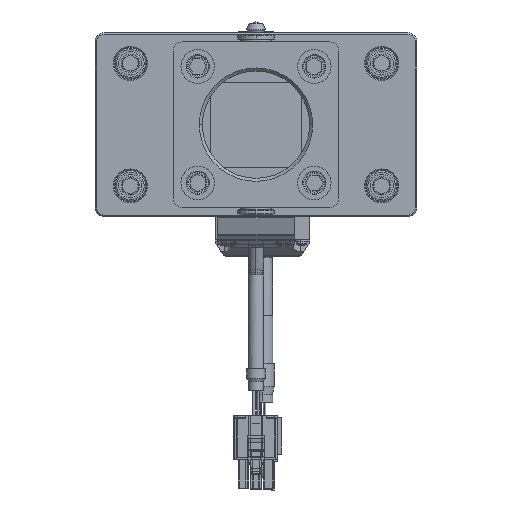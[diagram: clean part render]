
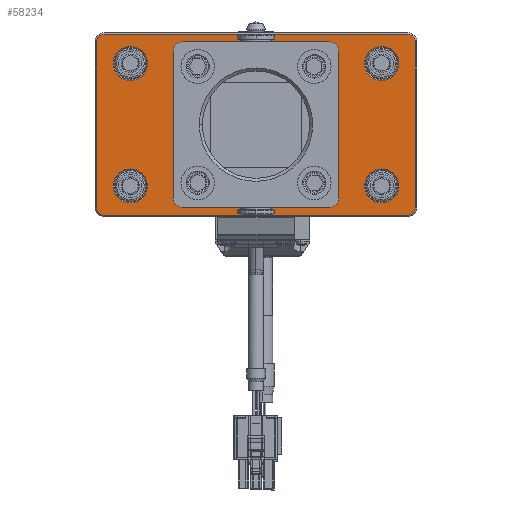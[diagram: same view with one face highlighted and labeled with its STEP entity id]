
A CAD part, front view. The second image highlights one B-rep face of the part: STEP entity #58234.
In plain terms, the highlighted planar face has unit normal (0, -1, 0) as drawn and (0, 1, 0) by its records, which use the part's own axes.
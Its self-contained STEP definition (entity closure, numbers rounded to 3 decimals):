
#56686=CARTESIAN_POINT('',(0.,6.,0.));
#56687=DIRECTION('',(0.,-1.,0.));
#56688=DIRECTION('',(1.,0.,0.));
#56689=AXIS2_PLACEMENT_3D('',#56686,#56687,#56688);
#56691=CARTESIAN_POINT('',(0.,6.,0.));
#56692=DIRECTION('',(0.,-1.,0.));
#56693=DIRECTION('',(-1.,0.,0.));
#56694=AXIS2_PLACEMENT_3D('',#56691,#56692,#56693);
#56696=CARTESIAN_POINT('',(-49.5,6.,-27.));
#56697=DIRECTION('',(0.,1.,0.));
#56698=DIRECTION('',(0.,0.,-1.));
#56699=AXIS2_PLACEMENT_3D('',#56696,#56697,#56698);
#56701=DIRECTION('',(-1.,0.,0.));
#56702=VECTOR('',#56701,99.);
#56703=CARTESIAN_POINT('',(49.5,6.,
-29.5));
#56704=LINE('',#56703,#56702);
#56705=CARTESIAN_POINT('',(49.5,6.,-27.));
#56706=DIRECTION('',(0.,1.,0.));
#56707=DIRECTION('',(1.,0.,0.));
#56708=AXIS2_PLACEMENT_3D('',#56705,#56706,#56707);
#56710=DIRECTION('',(0.,0.,-1.));
#56711=VECTOR('',#56710,54.);
#56712=CARTESIAN_POINT('',(52.,6.,27.));
#56713=LINE('',#56712,#56711);
#56714=CARTESIAN_POINT('',(49.5,6.,27.));
#56715=DIRECTION('',(0.,1.,0.));
#56716=DIRECTION('',(0.,0.,1.));
#56717=AXIS2_PLACEMENT_3D('',#56714,#56715,#56716);
#56719=DIRECTION('',(1.,0.,0.));
#56720=VECTOR('',#56719,99.);
#56721=CARTESIAN_POINT('',(-49.5,6.,
29.5));
#56722=LINE('',#56721,#56720);
#56723=CARTESIAN_POINT('',(-49.5,6.,27.));
#56724=DIRECTION('',(0.,1.,0.));
#56725=DIRECTION('',(-1.,0.,0.));
#56726=AXIS2_PLACEMENT_3D('',#56723,#56724,#56725);
#56728=DIRECTION('',(0.,0.,1.));
#56729=VECTOR('',#56728,54.);
#56730=CARTESIAN_POINT('',(-52.,6.,
-27.));
#56731=LINE('',#56730,#56729);
#56732=CARTESIAN_POINT('',(41.,6.,20.));
#56733=DIRECTION('',(0.,-1.,0.));
#56734=DIRECTION('',(1.,0.,0.));
#56735=AXIS2_PLACEMENT_3D('',#56732,#56733,#56734);
#56737=CARTESIAN_POINT('',(41.,6.,20.));
#56738=DIRECTION('',(0.,-1.,0.));
#56739=DIRECTION('',(-1.,0.,0.));
#56740=AXIS2_PLACEMENT_3D('',#56737,#56738,#56739);
#56742=CARTESIAN_POINT('',(-41.,6.,20.));
#56743=DIRECTION('',(0.,-1.,0.));
#56744=DIRECTION('',(1.,0.,0.));
#56745=AXIS2_PLACEMENT_3D('',#56742,#56743,#56744);
#56747=CARTESIAN_POINT('',(-41.,6.,20.));
#56748=DIRECTION('',(0.,-1.,0.));
#56749=DIRECTION('',(-1.,0.,0.));
#56750=AXIS2_PLACEMENT_3D('',#56747,#56748,#56749);
#56752=CARTESIAN_POINT('',(41.,6.,-20.));
#56753=DIRECTION('',(0.,-1.,0.));
#56754=DIRECTION('',(1.,0.,0.));
#56755=AXIS2_PLACEMENT_3D('',#56752,#56753,#56754);
#56757=CARTESIAN_POINT('',(41.,6.,-20.));
#56758=DIRECTION('',(0.,-1.,0.));
#56759=DIRECTION('',(-1.,0.,0.));
#56760=AXIS2_PLACEMENT_3D('',#56757,#56758,#56759);
#56762=CARTESIAN_POINT('',(-41.,6.,-20.));
#56763=DIRECTION('',(0.,-1.,0.));
#56764=DIRECTION('',(1.,0.,0.));
#56765=AXIS2_PLACEMENT_3D('',#56762,#56763,#56764);
#56767=CARTESIAN_POINT('',(-41.,6.,-20.));
#56768=DIRECTION('',(0.,-1.,0.));
#56769=DIRECTION('',(-1.,0.,0.));
#56770=AXIS2_PLACEMENT_3D('',#56767,#56768,#56769);
#56772=CARTESIAN_POINT('',(-19.,6.,-19.));
#56773=DIRECTION('',(0.,1.,0.));
#56774=DIRECTION('',(1.,0.,0.));
#56775=AXIS2_PLACEMENT_3D('',#56772,#56773,#56774);
#56777=CARTESIAN_POINT('',(-19.,6.,-19.));
#56778=DIRECTION('',(0.,1.,0.));
#56779=DIRECTION('',(-1.,0.,0.));
#56780=AXIS2_PLACEMENT_3D('',#56777,#56778,#56779);
#56782=CARTESIAN_POINT('',(-19.,6.,19.));
#56783=DIRECTION('',(0.,1.,0.));
#56784=DIRECTION('',(0.,0.,-1.));
#56785=AXIS2_PLACEMENT_3D('',#56782,#56783,#56784);
#56787=CARTESIAN_POINT('',(-19.,6.,19.));
#56788=DIRECTION('',(0.,1.,0.));
#56789=DIRECTION('',(0.,0.,1.));
#56790=AXIS2_PLACEMENT_3D('',#56787,#56788,#56789);
#56792=CARTESIAN_POINT('',(19.,6.,19.));
#56793=DIRECTION('',(0.,1.,0.));
#56794=DIRECTION('',(-1.,0.,0.));
#56795=AXIS2_PLACEMENT_3D('',#56792,#56793,#56794);
#56797=CARTESIAN_POINT('',(19.,6.,19.));
#56798=DIRECTION('',(0.,1.,0.));
#56799=DIRECTION('',(1.,0.,0.));
#56800=AXIS2_PLACEMENT_3D('',#56797,#56798,#56799);
#56802=CARTESIAN_POINT('',(19.,6.,-19.));
#56803=DIRECTION('',(0.,1.,0.));
#56804=DIRECTION('',(0.,0.,1.));
#56805=AXIS2_PLACEMENT_3D('',#56802,#56803,#56804);
#56807=CARTESIAN_POINT('',(19.,6.,-19.));
#56808=DIRECTION('',(0.,1.,0.));
#56809=DIRECTION('',(0.,0.,-1.));
#56810=AXIS2_PLACEMENT_3D('',#56807,#56808,#56809);
#57718=CARTESIAN_POINT('',(18.,6.,0.));
#57719=CARTESIAN_POINT('',(-18.,6.,0.));
#57720=VERTEX_POINT('',#57718);
#57721=VERTEX_POINT('',#57719);
#57766=CARTESIAN_POINT('',(-49.5,6.,-29.5));
#57767=CARTESIAN_POINT('',(-52.,6.,-27.));
#57768=VERTEX_POINT('',#57766);
#57769=VERTEX_POINT('',#57767);
#57774=CARTESIAN_POINT('',(-52.,6.,
27.));
#57775=VERTEX_POINT('',#57774);
#57778=CARTESIAN_POINT('',(-49.5,6.,29.5));
#57779=VERTEX_POINT('',#57778);
#57782=CARTESIAN_POINT('',(49.5,6.,29.5));
#57783=VERTEX_POINT('',#57782);
#57786=CARTESIAN_POINT('',(52.,6.,27.));
#57787=VERTEX_POINT('',#57786);
#57790=CARTESIAN_POINT('',(52.,6.,
-27.));
#57791=VERTEX_POINT('',#57790);
#57794=CARTESIAN_POINT('',(49.5,6.,-29.5));
#57795=VERTEX_POINT('',#57794);
#57814=CARTESIAN_POINT('',(46.55,6.,20.));
#57815=CARTESIAN_POINT('',(35.45,6.,20.));
#57816=VERTEX_POINT('',#57814);
#57817=VERTEX_POINT('',#57815);
#57838=CARTESIAN_POINT('',(-35.45,6.,20.));
#57839=CARTESIAN_POINT('',(-46.55,6.,20.));
#57840=VERTEX_POINT('',#57838);
#57841=VERTEX_POINT('',#57839);
#57854=CARTESIAN_POINT('',(46.55,6.,-20.));
#57855=CARTESIAN_POINT('',(35.45,6.,-20.));
#57856=VERTEX_POINT('',#57854);
#57857=VERTEX_POINT('',#57855);
#57862=CARTESIAN_POINT('',(-35.45,6.,-20.));
#57863=CARTESIAN_POINT('',(-46.55,6.,-20.));
#57864=VERTEX_POINT('',#57862);
#57865=VERTEX_POINT('',#57863);
#57962=CARTESIAN_POINT('',(-16.,6.,-19.));
#57963=CARTESIAN_POINT('',(-22.,6.,-19.));
#57964=VERTEX_POINT('',#57962);
#57965=VERTEX_POINT('',#57963);
#57970=CARTESIAN_POINT('',(-19.,6.,16.));
#57971=CARTESIAN_POINT('',(-19.,6.,22.));
#57972=VERTEX_POINT('',#57970);
#57973=VERTEX_POINT('',#57971);
#57978=CARTESIAN_POINT('',(16.,6.,19.));
#57979=CARTESIAN_POINT('',(22.,6.,19.));
#57980=VERTEX_POINT('',#57978);
#57981=VERTEX_POINT('',#57979);
#57986=CARTESIAN_POINT('',(19.,6.,-16.));
#57987=CARTESIAN_POINT('',(19.,6.,-22.));
#57988=VERTEX_POINT('',#57986);
#57989=VERTEX_POINT('',#57987);
#58158=CARTESIAN_POINT('',(0.,6.,0.));
#58159=DIRECTION('',(0.,1.,0.));
#58160=DIRECTION('',(1.,0.,0.));
#58161=AXIS2_PLACEMENT_3D('',#58158,#58159,#58160);
#58162=PLANE('',#58161);
#58164=ORIENTED_EDGE('',*,*,#58163,.F.);
#58166=ORIENTED_EDGE('',*,*,#58165,.F.);
#58168=ORIENTED_EDGE('',*,*,#58167,.F.);
#58170=ORIENTED_EDGE('',*,*,#58169,.F.);
#58172=ORIENTED_EDGE('',*,*,#58171,.F.);
#58174=ORIENTED_EDGE('',*,*,#58173,.F.);
#58176=ORIENTED_EDGE('',*,*,#58175,.F.);
#58178=ORIENTED_EDGE('',*,*,#58177,.F.);
#58179=EDGE_LOOP('',(#58164,#58166,#58168,#58170,#58172,#58174,#58176,#58178));
#58180=FACE_OUTER_BOUND('',#58179,.F.);
#58182=ORIENTED_EDGE('',*,*,#58181,.F.);
#58183=ORIENTED_EDGE('',*,*,#58148,.F.);
#58184=EDGE_LOOP('',(#58182,#58183));
#58185=FACE_BOUND('',#58184,.F.);
#58187=ORIENTED_EDGE('',*,*,#58186,.F.);
#58189=ORIENTED_EDGE('',*,*,#58188,.F.);
#58190=EDGE_LOOP('',(#58187,#58189));
#58191=FACE_BOUND('',#58190,.F.);
#58193=ORIENTED_EDGE('',*,*,#58192,.F.);
#58195=ORIENTED_EDGE('',*,*,#58194,.F.);
#58196=EDGE_LOOP('',(#58193,#58195));
#58197=FACE_BOUND('',#58196,.F.);
#58199=ORIENTED_EDGE('',*,*,#58198,.F.);
#58201=ORIENTED_EDGE('',*,*,#58200,.F.);
#58202=EDGE_LOOP('',(#58199,#58201));
#58203=FACE_BOUND('',#58202,.F.);
#58205=ORIENTED_EDGE('',*,*,#58204,.F.);
#58207=ORIENTED_EDGE('',*,*,#58206,.F.);
#58208=EDGE_LOOP('',(#58205,#58207));
#58209=FACE_BOUND('',#58208,.F.);
#58211=ORIENTED_EDGE('',*,*,#58210,.T.);
#58213=ORIENTED_EDGE('',*,*,#58212,.T.);
#58214=EDGE_LOOP('',(#58211,#58213));
#58215=FACE_BOUND('',#58214,.F.);
#58217=ORIENTED_EDGE('',*,*,#58216,.T.);
#58219=ORIENTED_EDGE('',*,*,#58218,.T.);
#58220=EDGE_LOOP('',(#58217,#58219));
#58221=FACE_BOUND('',#58220,.F.);
#58223=ORIENTED_EDGE('',*,*,#58222,.T.);
#58225=ORIENTED_EDGE('',*,*,#58224,.T.);
#58226=EDGE_LOOP('',(#58223,#58225));
#58227=FACE_BOUND('',#58226,.F.);
#58229=ORIENTED_EDGE('',*,*,#58228,.T.);
#58231=ORIENTED_EDGE('',*,*,#58230,.T.);
#58232=EDGE_LOOP('',(#58229,#58231));
#58233=FACE_BOUND('',#58232,.F.);
#58234=ADVANCED_FACE('',(#58180,#58185,#58191,#58197,#58203,#58209,#58215,
#58221,#58227,#58233),#58162,.T.);
#56690=CIRCLE('',#56689,18.);
#56695=CIRCLE('',#56694,18.);
#56700=CIRCLE('',#56699,2.5);
#56709=CIRCLE('',#56708,2.5);
#56718=CIRCLE('',#56717,2.5);
#56727=CIRCLE('',#56726,2.5);
#56736=CIRCLE('',#56735,5.55);
#56741=CIRCLE('',#56740,5.55);
#56746=CIRCLE('',#56745,5.55);
#56751=CIRCLE('',#56750,5.55);
#56756=CIRCLE('',#56755,5.55);
#56761=CIRCLE('',#56760,5.55);
#56766=CIRCLE('',#56765,5.55);
#56771=CIRCLE('',#56770,5.55);
#56776=CIRCLE('',#56775,3.);
#56781=CIRCLE('',#56780,3.);
#56786=CIRCLE('',#56785,3.);
#56791=CIRCLE('',#56790,3.);
#56796=CIRCLE('',#56795,3.);
#56801=CIRCLE('',#56800,3.);
#56806=CIRCLE('',#56805,3.);
#56811=CIRCLE('',#56810,3.);
#58148=EDGE_CURVE('',#57721,#57720,#56695,.T.);
#58163=EDGE_CURVE('',#57768,#57769,#56700,.T.);
#58165=EDGE_CURVE('',#57795,#57768,#56704,.T.);
#58167=EDGE_CURVE('',#57791,#57795,#56709,.T.);
#58169=EDGE_CURVE('',#57787,#57791,#56713,.T.);
#58171=EDGE_CURVE('',#57783,#57787,#56718,.T.);
#58173=EDGE_CURVE('',#57779,#57783,#56722,.T.);
#58175=EDGE_CURVE('',#57775,#57779,#56727,.T.);
#58177=EDGE_CURVE('',#57769,#57775,#56731,.T.);
#58181=EDGE_CURVE('',#57720,#57721,#56690,.T.);
#58186=EDGE_CURVE('',#57816,#57817,#56736,.T.);
#58188=EDGE_CURVE('',#57817,#57816,#56741,.T.);
#58192=EDGE_CURVE('',#57840,#57841,#56746,.T.);
#58194=EDGE_CURVE('',#57841,#57840,#56751,.T.);
#58198=EDGE_CURVE('',#57856,#57857,#56756,.T.);
#58200=EDGE_CURVE('',#57857,#57856,#56761,.T.);
#58204=EDGE_CURVE('',#57864,#57865,#56766,.T.);
#58206=EDGE_CURVE('',#57865,#57864,#56771,.T.);
#58210=EDGE_CURVE('',#57964,#57965,#56776,.T.);
#58212=EDGE_CURVE('',#57965,#57964,#56781,.T.);
#58216=EDGE_CURVE('',#57972,#57973,#56786,.T.);
#58218=EDGE_CURVE('',#57973,#57972,#56791,.T.);
#58222=EDGE_CURVE('',#57980,#57981,#56796,.T.);
#58224=EDGE_CURVE('',#57981,#57980,#56801,.T.);
#58228=EDGE_CURVE('',#57988,#57989,#56806,.T.);
#58230=EDGE_CURVE('',#57989,#57988,#56811,.T.);
